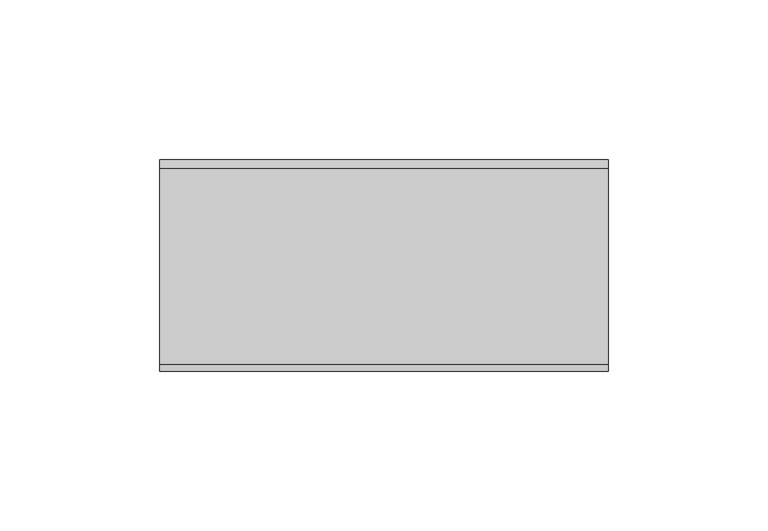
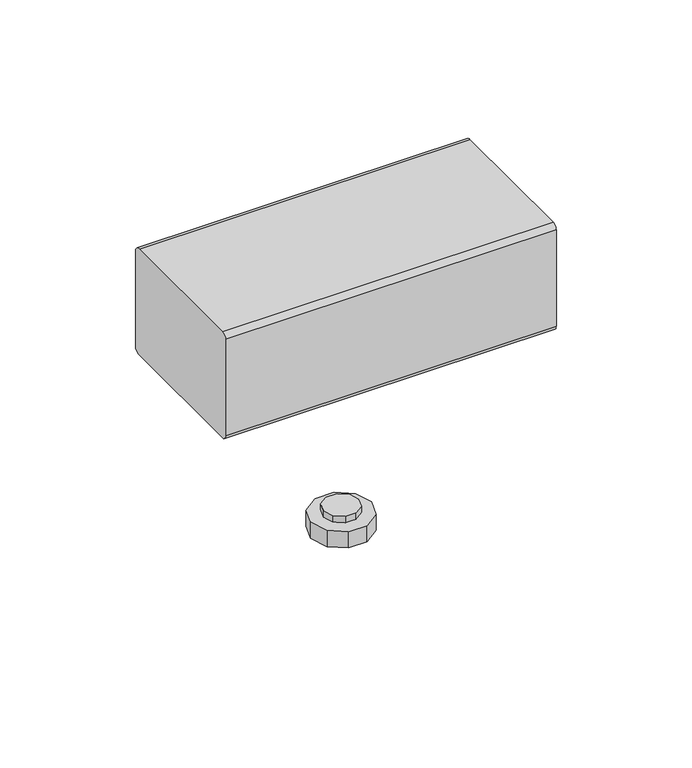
"""IFC4 building model written with IfcOpenShell, lengths in millimetres: furniture geometry, HON - Voi - Dean Power Module Clamp : Dean Power Module Clamp."""

from ifc_helpers import new_model, si_unit, frame, origin, place, context, project, spatial, polyline, circle_curve, ellipse_curve, outline, extrude, source, transform, mapped, element, save
from ifc_brep_helpers import plane_surface, cylinder_surface, revolved_surface, advanced_brep


def furniture_3052da3d(model_context):
    return source(origin(), model_context, "Body", "SolidModel", [
        advanced_brep(
        [(70.5359503, -0.5643146, 772.9745615), (70.5359503, 1.6950611, 770.7151854), (70.5359503, 63.3626237, 770.7151795), (70.5359503, 65.8131706, 773.165726), (70.5359503, 65.8131747, 815.63126), (70.5359503, 62.9772354, 818.4671998), (70.5359503, 1.5317365, 818.4672057), (70.5359503, -0.5643104, 816.3711592), (-70.2041887, -0.5643146, 772.9745615), (-70.2041887, -0.5643104, 816.3711592), (-70.2041887, 1.5317365, 818.4672057), (-70.2041887, 62.9772354, 818.4671998), (-70.2041887, 65.8131747, 815.63126), (-70.2041887, 65.8131706, 773.165726), (-70.2041887, 63.3626237, 770.7151795), (-70.2041887, 1.6950611, 770.7151854), (-44.1246409, 65.8131735, 803.4423383), (-44.1246409, 65.813173, 797.949968), (-31.6786528, 65.813173, 797.949968), (-31.6786528, 65.8131735, 803.4423383), (-31.6786528, 65.8131722, 789.8076724), (-31.6786528, 65.8131727, 794.3328658), (-44.1246409, 65.8131727, 794.3328658), (-44.1246409, 65.8131722, 789.8076724), (-7.4979703, 65.8131736, 804.3095852), (-7.4979703, 65.8131728, 795.6373337), (-4.8055656, 65.8131728, 795.6373337), (-4.8055656, 65.8131736, 804.3095852), (5.2988974, 65.8131735, 803.4423383), (5.2988974, 65.8131729, 796.4804521), (7.9452368, 65.8131729, 796.4804521), (7.9452368, 65.8131735, 803.4423383), (2.8398434, 65.8131719, 786.8428137), (-2.4433551, 65.8131719, 786.8428137), (-2.4433551, 65.8131717, 784.8174958), (2.8398434, 65.8131717, 784.8174958), (30.6020297, 65.8131736, 804.3095852), (30.6020297, 65.8131728, 795.6373337), (33.2944344, 65.8131728, 795.6373337), (33.2944344, 65.8131736, 804.3095852), (43.3988974, 65.8131735, 803.4423383), (43.3988974, 65.8131729, 796.4804521), (46.0452368, 65.8131729, 796.4804521), (46.0452368, 65.8131735, 803.4423383), (40.9398434, 65.8131719, 786.8428137), (35.6566449, 65.8131719, 786.8428137), (35.6566449, 65.8131717, 784.8174958), (40.9398434, 65.8131717, 784.8174958), (-31.6786528, 62.1692992, 803.394078), (-31.6786528, 62.2420285, 797.902671), (-44.1246409, 62.2420285, 797.902671), (-44.1246409, 62.1692992, 803.394078), (-44.1246409, 62.3498478, 789.7618035), (-44.1246409, 62.2899258, 794.2862031), (-31.6786528, 62.2899258, 794.2862031), (-31.6786528, 62.3498478, 789.7618035), (-4.8055656, 62.1578152, 804.2611729), (-4.8055656, 62.2726521, 795.5904423), (-7.4979703, 62.2726521, 795.5904423), (-7.4979703, 62.1578152, 804.2611729), (7.9452368, 62.1692992, 803.394078), (7.9452368, 62.2614877, 796.4334128), (5.2988974, 62.2614877, 796.4334128), (5.2988974, 62.1692992, 803.394078), (2.8398434, 62.4159272, 784.772502), (-2.4433551, 62.4159272, 784.772502), (-2.4433551, 62.3891082, 786.7974647), (2.8398434, 62.3891082, 786.7974647), (33.2944344, 62.1578152, 804.2611729), (33.2944344, 62.2726521, 795.5904423), (30.6020297, 62.2726521, 795.5904423), (30.6020297, 62.1578152, 804.2611729), (46.0452368, 62.1692992, 803.394078), (46.0452368, 62.2614877, 796.4334128), (43.3988974, 62.2614877, 796.4334128), (43.3988974, 62.1692992, 803.394078), (40.9398434, 62.4159272, 784.772502), (35.6566449, 62.4159272, 784.772502), (35.6566449, 62.3891082, 786.7974647), (40.9398434, 62.3891082, 786.7974647)],
        [
            (0, 1, circle_curve(frame((70.5359503, 1.6950614, 772.9745613), z_axis=(1.0, 0.0, 0.0), x_axis=(0.0, 0.9483236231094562, -0.31730475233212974)), 2.2593759)),
            (1, 2),
            (2, 3, circle_curve(frame((70.5359503, 63.3626239, 773.1657262), z_axis=(1.0, 0.0, 0.0), x_axis=(0.0, 0.9483236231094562, -0.31730475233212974)), 2.4505467)),
            (3, 4),
            (4, 5, circle_curve(frame((70.5359503, 62.9772351, 815.6312602), z_axis=(1.0, 0.0, 0.0), x_axis=(0.0, 0.9483236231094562, -0.31730475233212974)), 2.8359396)),
            (5, 6),
            (6, 7, circle_curve(frame((70.5359503, 1.5317363, 816.371159), z_axis=(1.0, 0.0, 0.0), x_axis=(0.0, 0.9483236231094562, -0.31730475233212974)), 2.0960467)),
            (7, 0),
            (8, 9),
            (9, 10, circle_curve(frame((-70.2041887, 1.5317363, 816.371159), z_axis=(-1.0, 0.0, 0.0), x_axis=(0.0, 0.9483236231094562, -0.31730475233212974)), 2.0960467)),
            (10, 11),
            (11, 12, circle_curve(frame((-70.2041887, 62.9772351, 815.6312602), z_axis=(-1.0, 0.0, 0.0), x_axis=(0.0, 0.9483236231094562, -0.31730475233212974)), 2.8359396)),
            (12, 13),
            (13, 14, circle_curve(frame((-70.2041887, 63.3626239, 773.1657262), z_axis=(-1.0, 0.0, 0.0), x_axis=(0.0, 0.9483236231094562, -0.31730475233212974)), 2.4505467)),
            (14, 15),
            (15, 8, circle_curve(frame((-70.2041887, 1.6950614, 772.9745613), z_axis=(-1.0, 0.0, 0.0), x_axis=(0.0, 0.9483236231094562, -0.31730475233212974)), 2.2593759)),
            (7, 9),
            (8, 0),
            (6, 10),
            (5, 11),
            (4, 12),
            (3, 13),
            (16, 17),
            (17, 18),
            (18, 19),
            (19, 16),
            (20, 21),
            (21, 22),
            (22, 23),
            (23, 20),
            (24, 25),
            (25, 26),
            (26, 27),
            (27, 24),
            (28, 29),
            (29, 30),
            (30, 31),
            (31, 28),
            (32, 33, ellipse_curve(frame((0.1982441, 65.8131719, 786.8428137), z_axis=(0.0, -0.9999999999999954, 9.608515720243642e-08), x_axis=(0.0, 9.608514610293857e-08, 0.9999999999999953)), 2.641831, 2.6415993)),
            (33, 34),
            (34, 35),
            (35, 32),
            (36, 37),
            (37, 38),
            (38, 39),
            (39, 36),
            (40, 41),
            (41, 42),
            (42, 43),
            (43, 40),
            (44, 45, ellipse_curve(frame((38.2982441, 65.8131719, 786.8428137), z_axis=(0.0, -0.9999999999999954, 9.608515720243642e-08), x_axis=(0.0, 9.608514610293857e-08, 0.9999999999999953)), 2.641831, 2.6415993)),
            (45, 46),
            (46, 47),
            (47, 44),
            (2, 14),
            (1, 15),
            (48, 49),
            (49, 50),
            (50, 51),
            (51, 48),
            (52, 53),
            (53, 54),
            (54, 55),
            (55, 52),
            (56, 57),
            (57, 58),
            (58, 59),
            (59, 56),
            (60, 61),
            (61, 62),
            (62, 63),
            (63, 60),
            (64, 65),
            (65, 66),
            (66, 67, circle_curve(frame((0.1982441, 62.3891082, 786.7974647), z_axis=(0.0, 0.9999123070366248, 0.013243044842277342), x_axis=(1.0, 0.0, 0.0)), 2.6415993)),
            (67, 64),
            (68, 69),
            (69, 70),
            (70, 71),
            (71, 68),
            (72, 73),
            (73, 74),
            (74, 75),
            (75, 72),
            (76, 77),
            (77, 78),
            (78, 79, circle_curve(frame((38.2982441, 62.3891082, 786.7974647), z_axis=(0.0, 0.9999123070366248, 0.013243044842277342), x_axis=(1.0, 0.0, 0.0)), 2.6415993)),
            (79, 76),
            (51, 16),
            (19, 48),
            (50, 17),
            (49, 18),
            (55, 20),
            (23, 52),
            (54, 21),
            (53, 22),
            (59, 24),
            (27, 56),
            (58, 25),
            (57, 26),
            (63, 28),
            (31, 60),
            (62, 29),
            (61, 30),
            (67, 32),
            (35, 64),
            (66, 33),
            (65, 34),
            (71, 36),
            (39, 68),
            (70, 37),
            (69, 38),
            (75, 40),
            (43, 72),
            (74, 41),
            (73, 42),
            (79, 44),
            (47, 76),
            (78, 45),
            (77, 46),
        ],
        [
            plane_surface(frame((70.5359503, -0.5643104, 816.4351737), z_axis=(1.0000000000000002, 0.0, 0.0), x_axis=(0.0, 9.608515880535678e-08, 0.9999999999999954))),
            plane_surface(frame((-70.2041887, -0.5643104, 816.4351737), z_axis=(-1.0000000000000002, 0.0, 0.0), x_axis=(0.0, -9.608515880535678e-08, -0.9999999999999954))),
            plane_surface(frame((70.5359503, -0.5643146, 772.9745615), z_axis=(0.0, -0.9999999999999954, 9.608515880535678e-08), x_axis=(-1.0, 0.0, 0.0))),
            cylinder_surface(frame((-70.2041887, 1.5317363, 816.371159), z_axis=(1.0, 0.0, 0.0), x_axis=(0.0, 0.9483236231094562, -0.31730475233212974)), 2.0960467),
            plane_surface(frame((70.5359503, 1.5317365, 818.4672057), z_axis=(0.0, 9.608515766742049e-08, 0.9999999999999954), x_axis=(-1.0, 0.0, 0.0))),
            cylinder_surface(frame((-70.2041887, 62.9772351, 815.6312602), z_axis=(1.0, 0.0, 0.0), x_axis=(0.0, 0.9483236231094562, -0.31730475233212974)), 2.8359396),
            plane_surface(frame((70.5359503, 65.8131747, 815.63126), z_axis=(0.0, 0.9999999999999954, -9.608515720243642e-08), x_axis=(-1.0, 0.0, 0.0))),
            cylinder_surface(frame((-70.2041887, 63.3626239, 773.1657262), z_axis=(1.0, 0.0, 0.0), x_axis=(0.0, 0.9483236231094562, -0.31730475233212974)), 2.4505467),
            plane_surface(frame((70.5359503, 63.3626237, 770.7151795), z_axis=(0.0, -9.608515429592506e-08, -0.9999999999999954), x_axis=(-1.0, 0.0, 0.0))),
            cylinder_surface(frame((-70.2041887, 1.6950614, 772.9745613), z_axis=(1.0, 0.0, 0.0), x_axis=(0.0, 0.9483236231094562, -0.31730475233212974)), 2.2593759),
            plane_surface(frame((-44.1246409, 62.1692992, 803.394078), z_axis=(0.0, 0.9999123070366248, 0.013243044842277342), x_axis=(1.0, 0.0, 0.0))),
            plane_surface(frame((-31.6786528, 73.7612869, 803.5476047), z_axis=(0.0, 0.013243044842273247, -0.9999123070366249), x_axis=(0.0, -0.9999123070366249, -0.013243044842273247))),
            plane_surface(frame((-44.1246409, 73.7612869, 803.5476047), z_axis=(1.0000000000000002, 0.0, 0.0), x_axis=(0.0, -0.9999123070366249, -0.013243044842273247))),
            plane_surface(frame((-44.1246409, 73.8340162, 798.0561977), z_axis=(0.0, -0.013243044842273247, 0.9999123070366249), x_axis=(0.0, -0.9999123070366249, -0.013243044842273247))),
            plane_surface(frame((-31.6786528, 73.8340162, 798.0561977), z_axis=(-1.0000000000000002, 0.0, 0.0), x_axis=(0.0, -0.9999123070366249, -0.013243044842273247))),
            plane_surface(frame((-44.1246409, 73.9418355, 789.9153301), z_axis=(0.0, -0.013243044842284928, 0.9999123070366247), x_axis=(0.0, -0.9999123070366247, -0.013243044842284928))),
            plane_surface(frame((-31.6786528, 73.9418355, 789.9153301), z_axis=(-1.0, 0.0, 0.0), x_axis=(0.0, -0.9999123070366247, -0.013243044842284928))),
            plane_surface(frame((-31.6786528, 73.8819134, 794.4397298), z_axis=(0.0, 0.013243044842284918, -0.9999123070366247), x_axis=(0.0, -0.9999123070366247, -0.013243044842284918))),
            plane_surface(frame((-44.1246409, 73.8819134, 794.4397298), z_axis=(1.0, 0.0, 0.0), x_axis=(0.0, -0.9999123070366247, -0.013243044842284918))),
            plane_surface(frame((-4.8055656, 73.7498029, 804.4146996), z_axis=(0.0, 0.013243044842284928, -0.9999123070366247), x_axis=(0.0, -0.9999123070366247, -0.013243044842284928))),
            plane_surface(frame((-7.4979703, 73.7498029, 804.4146996), z_axis=(1.0, 0.0, 0.0), x_axis=(0.0, -0.9999123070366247, -0.013243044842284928))),
            plane_surface(frame((-7.4979703, 73.8646398, 795.743969), z_axis=(0.0, -0.013243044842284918, 0.9999123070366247), x_axis=(0.0, -0.9999123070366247, -0.013243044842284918))),
            plane_surface(frame((-4.8055656, 73.8646398, 795.743969), z_axis=(-1.0, 0.0, 0.0), x_axis=(0.0, -0.9999123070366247, -0.013243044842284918))),
            plane_surface(frame((7.9452368, 73.7612869, 803.5476047), z_axis=(0.0, 0.013243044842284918, -0.9999123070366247), x_axis=(0.0, -0.9999123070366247, -0.013243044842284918))),
            plane_surface(frame((5.2988974, 73.7612869, 803.5476047), z_axis=(1.0, 0.0, 0.0), x_axis=(0.0, -0.9999123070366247, -0.013243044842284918))),
            plane_surface(frame((5.2988974, 73.8534754, 796.5869395), z_axis=(0.0, -0.013243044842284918, 0.9999123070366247), x_axis=(0.0, -0.9999123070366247, -0.013243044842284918))),
            plane_surface(frame((7.9452368, 73.8534754, 796.5869395), z_axis=(-1.0, 0.0, 0.0), x_axis=(0.0, -0.9999123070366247, -0.013243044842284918))),
            plane_surface(frame((2.8398434, 74.0079149, 784.9260287), z_axis=(-1.0, 0.0, 0.0), x_axis=(0.0, -0.9999123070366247, -0.013243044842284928))),
            revolved_surface(polyline([(2.8398434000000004, 65.84815497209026, 786.8432770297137), (2.8398434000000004, 62.38910819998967, 786.7974647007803)]), (0.1982441, 4.809123, 786.0348635), (0.0, 0.9999123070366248, 0.013243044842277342)),
            plane_surface(frame((-2.4433551, 73.9810958, 786.9509914), z_axis=(1.0, 0.0, 0.0), x_axis=(0.0, -0.9999123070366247, -0.013243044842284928))),
            plane_surface(frame((-2.4433551, 74.0079149, 784.9260287), z_axis=(0.0, -0.013243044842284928, 0.9999123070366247), x_axis=(0.0, -0.9999123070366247, -0.013243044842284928))),
            plane_surface(frame((33.2944344, 73.7498029, 804.4146996), z_axis=(0.0, 0.013243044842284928, -0.9999123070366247), x_axis=(0.0, -0.9999123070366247, -0.013243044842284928))),
            plane_surface(frame((30.6020297, 73.7498029, 804.4146996), z_axis=(1.0, 0.0, 0.0), x_axis=(0.0, -0.9999123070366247, -0.013243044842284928))),
            plane_surface(frame((30.6020297, 73.8646398, 795.743969), z_axis=(0.0, -0.013243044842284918, 0.9999123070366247), x_axis=(0.0, -0.9999123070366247, -0.013243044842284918))),
            plane_surface(frame((33.2944344, 73.8646398, 795.743969), z_axis=(-1.0, 0.0, 0.0), x_axis=(0.0, -0.9999123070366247, -0.013243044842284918))),
            plane_surface(frame((46.0452368, 73.7612869, 803.5476047), z_axis=(0.0, 0.013243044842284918, -0.9999123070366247), x_axis=(0.0, -0.9999123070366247, -0.013243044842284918))),
            plane_surface(frame((43.3988974, 73.7612869, 803.5476047), z_axis=(1.0, 0.0, 0.0), x_axis=(0.0, -0.9999123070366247, -0.013243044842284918))),
            plane_surface(frame((43.3988974, 73.8534754, 796.5869395), z_axis=(0.0, -0.013243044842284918, 0.9999123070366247), x_axis=(0.0, -0.9999123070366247, -0.013243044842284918))),
            plane_surface(frame((46.0452368, 73.8534754, 796.5869395), z_axis=(-1.0, 0.0, 0.0), x_axis=(0.0, -0.9999123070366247, -0.013243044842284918))),
            plane_surface(frame((40.9398434, 74.0079149, 784.9260287), z_axis=(-1.0, 0.0, 0.0), x_axis=(0.0, -0.9999123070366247, -0.013243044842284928))),
            revolved_surface(polyline([(40.9398434, 65.84815497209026, 786.8432770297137), (40.9398434, 62.38910819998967, 786.7974647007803)]), (38.2982441, 4.809123, 786.0348635), (0.0, 0.9999123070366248, 0.013243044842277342)),
            plane_surface(frame((35.6566449, 73.9810958, 786.9509914), z_axis=(1.0, 0.0, 0.0), x_axis=(0.0, -0.9999123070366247, -0.013243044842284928))),
            plane_surface(frame((35.6566449, 74.0079149, 784.9260287), z_axis=(0.0, -0.013243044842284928, 0.9999123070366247), x_axis=(0.0, -0.9999123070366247, -0.013243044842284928))),
        ],
        [
            (0, [[1, 2, 3, 4, 5, 6, 7, 8]]),
            (1, [[9, 10, 11, 12, 13, 14, 15, 16]]),
            (2, [[17, -9, 18, -8]]),
            (3, [[19, -10, -17, -7]]),
            (4, [[20, -11, -19, -6]]),
            (5, [[21, -12, -20, -5]]),
            (6, [[22, -13, -21, -4], [23, 24, 25, 26], [27, 28, 29, 30], [31, 32, 33, 34], [35, 36, 37, 38], [39, 40, 41, 42], [43, 44, 45, 46], [47, 48, 49, 50], [51, 52, 53, 54]]),
            (7, [[55, -14, -22, -3]]),
            (8, [[56, -15, -55, -2]]),
            (9, [[-18, -16, -56, -1]]),
            (10, [[57, 58, 59, 60]]),
            (10, [[61, 62, 63, 64]]),
            (10, [[65, 66, 67, 68]]),
            (10, [[69, 70, 71, 72]]),
            (10, [[73, 74, 75, 76]]),
            (10, [[77, 78, 79, 80]]),
            (10, [[81, 82, 83, 84]]),
            (10, [[85, 86, 87, 88]]),
            (11, [[89, -26, 90, -60]]),
            (12, [[91, -23, -89, -59]]),
            (13, [[92, -24, -91, -58]]),
            (14, [[-90, -25, -92, -57]]),
            (15, [[93, -30, 94, -64]]),
            (16, [[95, -27, -93, -63]]),
            (17, [[96, -28, -95, -62]]),
            (18, [[-94, -29, -96, -61]]),
            (19, [[97, -34, 98, -68]]),
            (20, [[99, -31, -97, -67]]),
            (21, [[100, -32, -99, -66]]),
            (22, [[-98, -33, -100, -65]]),
            (23, [[101, -38, 102, -72]]),
            (24, [[103, -35, -101, -71]]),
            (25, [[104, -36, -103, -70]]),
            (26, [[-102, -37, -104, -69]]),
            (27, [[105, -42, 106, -76]]),
            (28, [[107, -39, -105, -75]]),
            (29, [[108, -40, -107, -74]]),
            (30, [[-106, -41, -108, -73]]),
            (31, [[109, -46, 110, -80]]),
            (32, [[111, -43, -109, -79]]),
            (33, [[112, -44, -111, -78]]),
            (34, [[-110, -45, -112, -77]]),
            (35, [[113, -50, 114, -84]]),
            (36, [[115, -47, -113, -83]]),
            (37, [[116, -48, -115, -82]]),
            (38, [[-114, -49, -116, -81]]),
            (39, [[117, -54, 118, -88]]),
            (40, [[119, -51, -117, -87]]),
            (41, [[120, -52, -119, -86]]),
            (42, [[-118, -53, -120, -85]]),
        ],
    ),
        extrude(outline(polyline([(-10.2914732, 28.468528), (-12.7903473, 36.1592716), (-10.370891, 43.6055923), (-3.9348708, 48.3083749), (4.1980549, 48.3083749), (10.6177734, 43.6441764), (13.0559742, 36.1401659), (10.5721338, 28.4956912), (4.0515607, 23.7582175), (-3.808287, 23.7582175), (-10.2914732, 28.468528)])), frame((0.0, 0.0, 684.58692), z_axis=(0.0, 0.0, 1.0), x_axis=(1.0, 0.0, 0.0)), (0.0, 0.0, 1.0), 7.265096),
        extrude(outline(polyline([(-2.1849836, 28.9538209), (-5.9303722, 31.675005), (-7.3930927, 36.1767958), (-6.06398, 40.5241275), (-2.247688, 43.196324), (2.4403563, 43.196324), (6.1852665, 40.4754875), (7.6132664, 36.0805556), (6.2658509, 31.6733581), (2.3819493, 28.9538209), (-2.1849836, 28.9538209)])), frame((0.0, 0.0, 691.724275), z_axis=(0.0, 0.0, 1.0), x_axis=(1.0, 0.0, 0.0)), (0.0, 0.0, 1.0), 3.251255),
    ])


if __name__ == "__main__":
    model = new_model("IFC4")
    model_context = context("Model", 3, world=origin())
    ifc_project = project(units=[si_unit("LENGTHUNIT", "METRE", prefix="MILLI")], contexts=[model_context])
    site = spatial("IfcSite", under=ifc_project)
    building = spatial("IfcBuilding", under=site)
    placement = place(None, origin())
    furniture_shape = furniture_3052da3d(model_context)
    element("IfcFurniture", 1, ObjectType="HON - Voi - Dean Power Module Clamp : Dean Power Module Clamp", at=placement, inside=building, context=model_context, shape_type="MappedRepresentation", body=[
        mapped(furniture_shape, transform((0.0, 0.0, 0.0), x_axis=(1.0, 0.0, 0.0), y_axis=(0.0, 1.0, 0.0), z_axis=(0.0, 0.0, 1.0))),
    ])
    save(model, "model.ifc")
